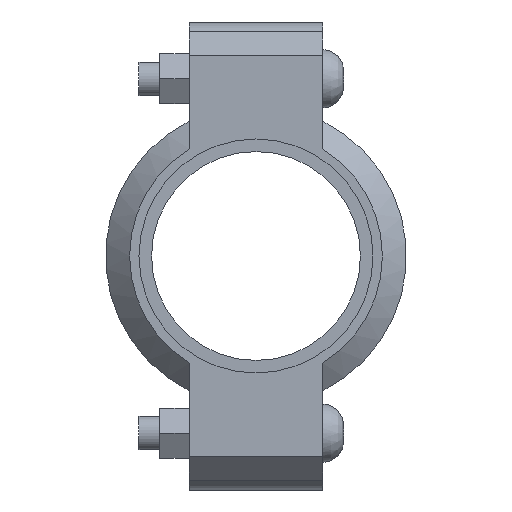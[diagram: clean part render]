
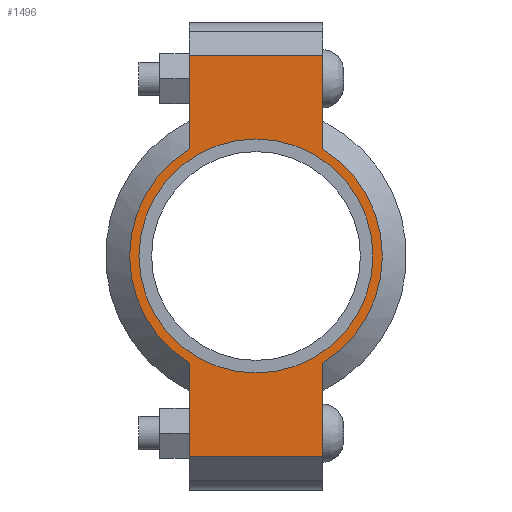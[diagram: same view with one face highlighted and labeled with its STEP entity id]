
A CAD part, left-side view. The second image highlights one B-rep face of the part: STEP entity #1496.
In plain terms, the highlighted planar face has unit normal (-1, 0, 0) as drawn and (0, 0, 1) by its records, which use the part's own axes.
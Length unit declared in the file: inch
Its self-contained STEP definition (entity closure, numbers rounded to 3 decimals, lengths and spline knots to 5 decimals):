
#176=LINE('',#2577,#267);
#184=LINE('',#2613,#275);
#191=LINE('',#2634,#282);
#200=LINE('',#2666,#291);
#201=LINE('',#2670,#292);
#202=LINE('',#2672,#293);
#267=VECTOR('',#2079,0.3937);
#275=VECTOR('',#2095,0.3937);
#282=VECTOR('',#2114,0.3937);
#291=VECTOR('',#2139,0.3937);
#292=VECTOR('',#2144,0.3937);
#293=VECTOR('',#2145,0.3937);
#345=FACE_BOUND('',#505,.T.);
#409=FACE_OUTER_BOUND('',#504,.T.);
#504=EDGE_LOOP('',(#1231,#1232,#1233,#1234,#1235,#1236,#1237,#1238));
#505=EDGE_LOOP('',(#1239));
#602=CIRCLE('',#1739,1.89);
#603=CIRCLE('',#1740,1.89);
#604=CIRCLE('',#1741,1.75);
#707=VERTEX_POINT('',#2574);
#708=VERTEX_POINT('',#2576);
#719=VERTEX_POINT('',#2608);
#720=VERTEX_POINT('',#2612);
#727=VERTEX_POINT('',#2631);
#728=VERTEX_POINT('',#2633);
#738=VERTEX_POINT('',#2669);
#739=VERTEX_POINT('',#2671);
#740=VERTEX_POINT('',#2674);
#871=EDGE_CURVE('',#708,#707,#176,.T.);
#885=EDGE_CURVE('',#720,#719,#184,.T.);
#895=EDGE_CURVE('',#728,#727,#191,.T.);
#910=EDGE_CURVE('',#720,#707,#200,.T.);
#911=EDGE_CURVE('',#719,#728,#602,.T.);
#912=EDGE_CURVE('',#738,#727,#201,.T.);
#913=EDGE_CURVE('',#738,#739,#202,.T.);
#914=EDGE_CURVE('',#739,#708,#603,.T.);
#915=EDGE_CURVE('',#740,#740,#604,.T.);
#1231=ORIENTED_EDGE('',*,*,#910,.F.);
#1232=ORIENTED_EDGE('',*,*,#885,.T.);
#1233=ORIENTED_EDGE('',*,*,#911,.T.);
#1234=ORIENTED_EDGE('',*,*,#895,.T.);
#1235=ORIENTED_EDGE('',*,*,#912,.F.);
#1236=ORIENTED_EDGE('',*,*,#913,.T.);
#1237=ORIENTED_EDGE('',*,*,#914,.T.);
#1238=ORIENTED_EDGE('',*,*,#871,.T.);
#1239=ORIENTED_EDGE('',*,*,#915,.T.);
#1350=PLANE('',#1738);
#1496=ADVANCED_FACE('',(#409,#345),#1350,.T.);
#1738=AXIS2_PLACEMENT_3D('',#2667,#2140,#2141);
#1739=AXIS2_PLACEMENT_3D('',#2668,#2142,#2143);
#1740=AXIS2_PLACEMENT_3D('',#2673,#2146,#2147);
#1741=AXIS2_PLACEMENT_3D('',#2675,#2148,#2149);
#2079=DIRECTION('',(-1.,0.,0.));
#2095=DIRECTION('',(1.,0.,0.));
#2114=DIRECTION('',(1.,0.,0.));
#2139=DIRECTION('',(0.,1.,0.));
#2140=DIRECTION('center_axis',(0.,0.,1.));
#2141=DIRECTION('ref_axis',(1.,0.,0.));
#2142=DIRECTION('center_axis',(0.,0.,1.));
#2143=DIRECTION('ref_axis',(-1.,0.,0.));
#2144=DIRECTION('',(0.,-1.,0.));
#2145=DIRECTION('',(-1.,0.,0.));
#2146=DIRECTION('center_axis',(0.,0.,1.));
#2147=DIRECTION('ref_axis',(-1.,0.,0.));
#2148=DIRECTION('center_axis',(0.,0.,-1.));
#2149=DIRECTION('ref_axis',(-1.,0.,0.));
#2574=CARTESIAN_POINT('',(-3.,1.,0.94));
#2576=CARTESIAN_POINT('',(-1.60378,1.,0.94));
#2577=CARTESIAN_POINT('',(-3.5,1.,0.94));
#2608=CARTESIAN_POINT('',(-1.60378,-1.,0.94));
#2612=CARTESIAN_POINT('',(-3.,-1.,0.94));
#2613=CARTESIAN_POINT('',(3.5,-1.,0.94));
#2631=CARTESIAN_POINT('',(3.,-1.,0.94));
#2633=CARTESIAN_POINT('',(1.60378,-1.,0.94));
#2634=CARTESIAN_POINT('',(3.5,-1.,0.94));
#2666=CARTESIAN_POINT('',(-3.,0.5,0.94));
#2667=CARTESIAN_POINT('Origin',(0.,0.,
0.94));
#2668=CARTESIAN_POINT('Origin',(0.,0.,0.94));
#2669=CARTESIAN_POINT('',(3.,1.,0.94));
#2670=CARTESIAN_POINT('',(3.,-0.5,0.94));
#2671=CARTESIAN_POINT('',(1.60378,1.,0.94));
#2672=CARTESIAN_POINT('',(-3.5,1.,0.94));
#2673=CARTESIAN_POINT('Origin',(0.,0.,0.94));
#2674=CARTESIAN_POINT('',(1.75,0.,0.94));
#2675=CARTESIAN_POINT('Origin',(0.,0.,0.94));
